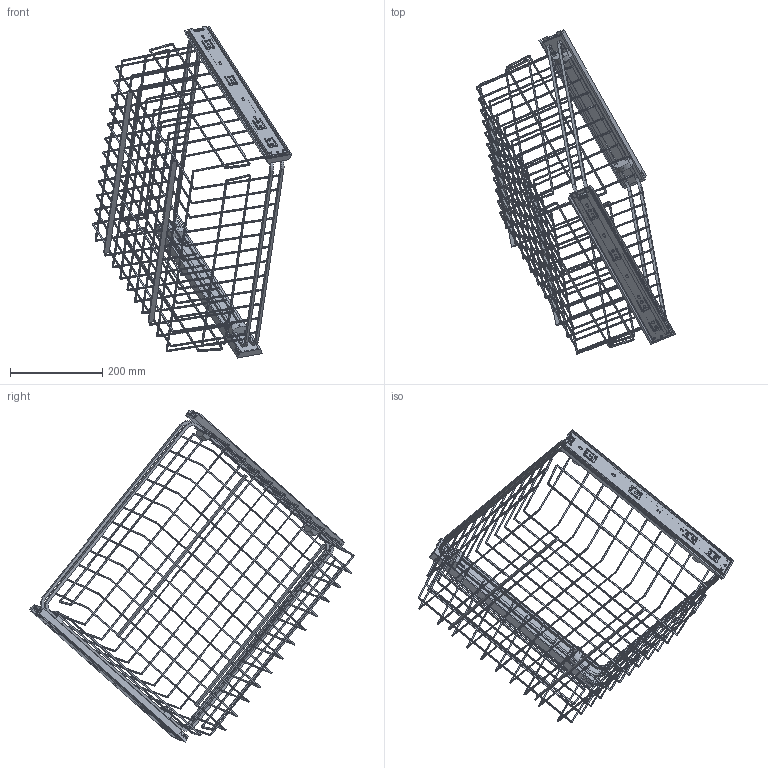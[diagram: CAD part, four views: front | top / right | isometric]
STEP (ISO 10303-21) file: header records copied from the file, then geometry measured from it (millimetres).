
FILE_DESCRIPTION(/* description */ (''),/* implementation_level */ '2;1');
FILE_NAME(/* name */ 'D:\$Workingspace\Designs\Meblowka\uproszczenia\garderoba smart\W-WKO…-GX.stp',/* time_stamp */ '2019-01-02T08:54:13+01:00',/* author */ ('tomaszw'),/* organization */ (''),/* preprocessor_version */ 'ST-DEVELOPER v17',/* originating_system */ 'Autodesk Inventor 2019',/* authorisation */ '');
FILE_SCHEMA (('AUTOMOTIVE_DESIGN { 1 0 10303 214 3 1 1 }'));
Length unit declared in the file: millimetre
Products named in the file (19): złożenie z koszem 11_2017; GTV_D_01; drut dół; drut 2,4 po długości; wzmocnienie 2,8 długości; wzmocnienie 2,8 długości_1; wzmocnienie dołu 3x12; drut 2,4 po długości_1; drut 2,4 po długości2; drut 2,4 po długości4; PPD_2; DD_3_01; MD_1_02; SM 4x16; PK-0H45-450-GX; Blokada_5; PK-0H45_1-450-GX; PK-0H45_2-450-GX; PK-0H45_3-450-GX
Assembly tree (54 placements, depth 3):
  złożenie z koszem 11_2017
    PPD_2  x2
    DD_3_01  x4
    MD_1_02  x4
    GTV_D_01
      drut dół  x2
      drut 2,4 po długości  x12
      wzmocnienie 2,8 długości_1  x2
      wzmocnienie 2,8 długości  x2
      wzmocnienie dołu 3x12  x2
      drut 2,4 po długości_1  x2
      drut 2,4 po długości2
      drut 2,4 po długości4  x7
    SM 4x16  x4
    PK-0H45-450-GX
      Blokada_5  x2
      PK-0H45_1-450-GX  x2
      PK-0H45_2-450-GX  x2
      PK-0H45_3-450-GX  x2
Bounding box: 433.44 x 704.71 x 720.98 mm (x, y, z)
Volume: 665636.6 mm3; surface area: 827155.9 mm2
Topology: 52 solids, 52 shells, 1980 faces, 5420 edges, 3616 vertices
Faces by surface type: plane 1388, cylinder 376, bspline 172, cone 44
Full cylindrical faces by diameter (mm): 4 x4, 4.3 x6, 4.5 x4, 5 x2, 5.1 x2, 6 x8, 7 x4, 8 x4, 8.3 x2
Entity records: 23169 total; most frequent: CARTESIAN_POINT 4748, ORIENTED_EDGE 3746, DIRECTION 3502, EDGE_CURVE 1873, LINE 1390, VECTOR 1390, VERTEX_POINT 1246, AXIS2_PLACEMENT_3D 1056
